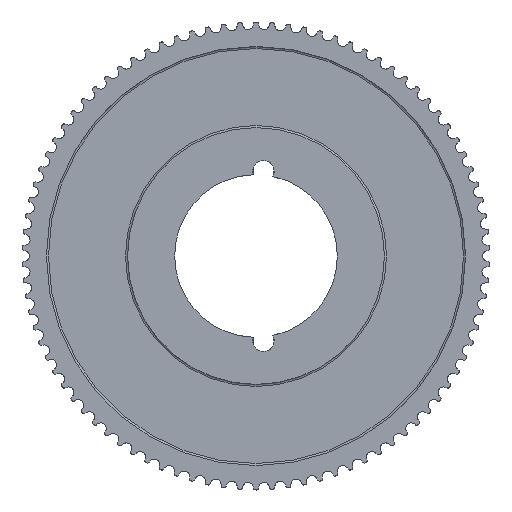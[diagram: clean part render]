
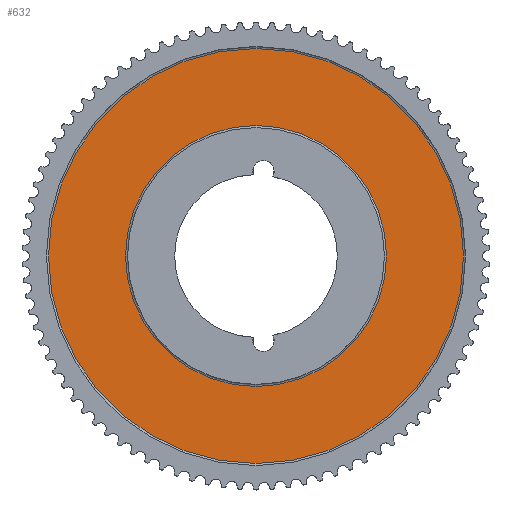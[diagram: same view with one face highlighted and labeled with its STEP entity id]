
A CAD part, left-side view. The second image highlights one B-rep face of the part: STEP entity #632.
In plain terms, the highlighted planar face has unit normal (-1, 0, 0).
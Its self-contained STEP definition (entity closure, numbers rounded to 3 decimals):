
#632 = ADVANCED_FACE( '', ( #1762, #1763 ), #1764, .T. );
#1762 = FACE_BOUND( '', #2897, .T. );
#1763 = FACE_OUTER_BOUND( '', #2898, .T. );
#1764 = PLANE( '', #2899 );
#2897 = EDGE_LOOP( '', ( #7872 ) );
#2898 = EDGE_LOOP( '', ( #7873 ) );
#2899 = AXIS2_PLACEMENT_3D( '', #7874, #7875, #7876 );
#7872 = ORIENTED_EDGE( '', *, *, #9536, .T. );
#7873 = ORIENTED_EDGE( '', *, *, #9535, .F. );
#7874 = CARTESIAN_POINT( '', ( 12.667, 101., 0. ) );
#7875 = DIRECTION( '', ( -1., 0., 0. ) );
#7876 = DIRECTION( '', ( 0., 0., 1. ) );
#9535 = EDGE_CURVE( '', #12286, #12286, #12287, .T. );
#9536 = EDGE_CURVE( '', #12288, #12288, #12289, .T. );
#12286 = VERTEX_POINT( '', #15989 );
#12287 = CIRCLE( '', #15990, 101. );
#12288 = VERTEX_POINT( '', #15991 );
#12289 = CIRCLE( '', #15992, 63.5 );
#15989 = CARTESIAN_POINT( '', ( 12.667, 0., -101. ) );
#15990 = AXIS2_PLACEMENT_3D( '', #19115, #19116, #19117 );
#15991 = CARTESIAN_POINT( '', ( 12.667, 0., -63.5 ) );
#15992 = AXIS2_PLACEMENT_3D( '', #19118, #19119, #19120 );
#19115 = CARTESIAN_POINT( '', ( 12.667, 0., 0. ) );
#19116 = DIRECTION( '', ( 1., 0., 0. ) );
#19117 = DIRECTION( '', ( 0., 0., -1. ) );
#19118 = CARTESIAN_POINT( '', ( 12.667, 0., 0. ) );
#19119 = DIRECTION( '', ( 1., 0., 0. ) );
#19120 = DIRECTION( '', ( 0., 0., -1. ) );
